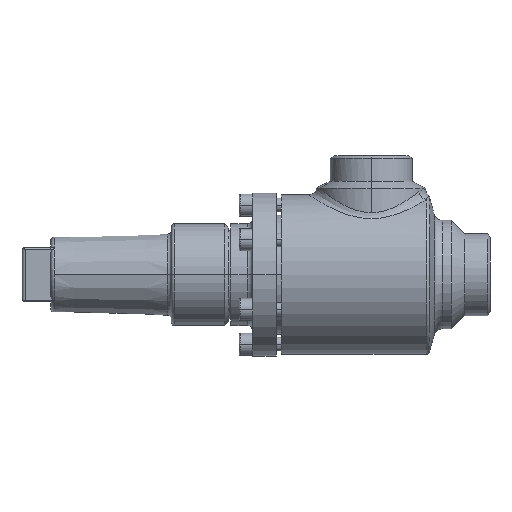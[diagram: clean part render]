
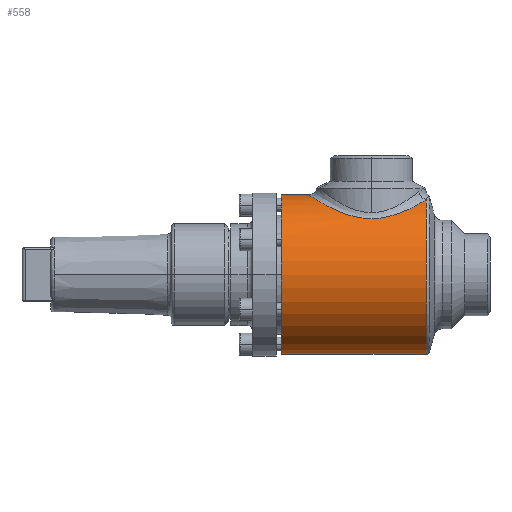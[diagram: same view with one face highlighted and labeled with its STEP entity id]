
A CAD part, left-side view. The second image highlights one B-rep face of the part: STEP entity #558.
In plain terms, the highlighted cylindrical face has radius 47 mm (diameter 94 mm), a partial arc.
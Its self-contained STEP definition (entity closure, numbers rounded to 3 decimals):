
#558 = ADVANCED_FACE ( 'NONE', ( #11615 ), #11616, .T. ) ;
#770 = CARTESIAN_POINT ( 'NONE',  ( 0., 0., -47. ) ) ;
#903 = LINE ( 'NONE', #904, #905 ) ;
#904 = CARTESIAN_POINT ( 'NONE',  ( 0., -91., -47. ) ) ;
#905 = VECTOR ( 'NONE', #906, 1000. ) ;
#906 = DIRECTION ( 'NONE',  ( 0., 1., 0. ) ) ;
#1619 = CIRCLE ( 'NONE', #1620, 47. ) ;
#1620 = AXIS2_PLACEMENT_3D ( 'NONE', #1621, #1622, #1623 ) ;
#1621 = CARTESIAN_POINT ( 'NONE',  ( 0., -85.446, 0. ) ) ;
#1622 = DIRECTION ( 'NONE',  ( 0., 1., 0. ) ) ;
#1623 = DIRECTION ( 'NONE',  ( 0., 0., -1. ) ) ;
#1661 = B_SPLINE_CURVE_WITH_KNOTS ( 'NONE', 3,
 ( #1662, #1663, #1664, #1665, #1666, #1667, #1668, #1669, #1670, #1671, #1672, #1673, #1674, #1675, #1676, #1679, #1680, #1681, #1682, #1683, #1684, #1685, #1686, #1687, #1688, #1689, #1690, #1691, #1692, #1693, #1694, #1697, #1698, #1699, #1700, #1701, #1702, #1703, #1704, #1705, #1706, #1707, #1708, #1709, #1710, #1711, #1712, #1714, #1715, #1716, #1717, #1718, #1719, #1720, #1721, #1722, #1723, #1724, #1725, #1726, #1727, #1728 ),
 .UNSPECIFIED., .F., .F.,
 ( 4, 2, 2, 2, 2, 2, 2, 2, 2, 2, 2, 2, 2, 2, 2, 2, 2, 2, 2, 2, 2, 2, 2, 2, 2, 2, 2, 2, 2, 2, 4 ),
 ( 0.017, 0.023, 0.026, 0.029, 0.035, 0.039, 0.04, 0.042, 0.048, 0.051, 0.052, 0.054, 0.06, 0.063, 0.066, 0.069, 0.072, 0.078, 0.081, 0.083, 0.084, 0.09, 0.093, 0.095, 0.096, 0.103, 0.106, 0.107, 0.109, 0.112, 0.115 ),
 .UNSPECIFIED. ) ;
#1662 = CARTESIAN_POINT ( 'NONE',  ( -16.073, -85.446, 44.166 ) ) ;
#1663 = CARTESIAN_POINT ( 'NONE',  ( -17.749, -84.43, 43.556 ) ) ;
#1664 = CARTESIAN_POINT ( 'NONE',  ( -19.293, -83.29, 42.887 ) ) ;
#1665 = CARTESIAN_POINT ( 'NONE',  ( -21.444, -81.41, 41.831 ) ) ;
#1666 = CARTESIAN_POINT ( 'NONE',  ( -22.133, -80.755, 41.469 ) ) ;
#1667 = CARTESIAN_POINT ( 'NONE',  ( -23.459, -79.389, 40.734 ) ) ;
#1668 = CARTESIAN_POINT ( 'NONE',  ( -24.096, -78.676, 40.359 ) ) ;
#1669 = CARTESIAN_POINT ( 'NONE',  ( -25.907, -76.48, 39.24 ) ) ;
#1670 = CARTESIAN_POINT ( 'NONE',  ( -26.989, -74.936, 38.497 ) ) ;
#1671 = CARTESIAN_POINT ( 'NONE',  ( -28.44, -72.491, 37.424 ) ) ;
#1672 = CARTESIAN_POINT ( 'NONE',  ( -28.894, -71.655, 37.073 ) ) ;
#1673 = CARTESIAN_POINT ( 'NONE',  ( -29.533, -70.366, 36.563 ) ) ;
#1674 = CARTESIAN_POINT ( 'NONE',  ( -29.739, -69.93, 36.396 ) ) ;
#1675 = CARTESIAN_POINT ( 'NONE',  ( -30.137, -69.047, 36.067 ) ) ;
#1676 = CARTESIAN_POINT ( 'NONE',  ( -30.328, -68.599, 35.906 ) ) ;
#1679 = CARTESIAN_POINT ( 'NONE',  ( -31.243, -66.344, 35.126 ) ) ;
#1680 = CARTESIAN_POINT ( 'NONE',  ( -31.842, -64.482, 34.576 ) ) ;
#1681 = CARTESIAN_POINT ( 'NONE',  ( -32.541, -61.591, 33.914 ) ) ;
#1682 = CARTESIAN_POINT ( 'NONE',  ( -32.74, -60.61, 33.721 ) ) ;
#1683 = CARTESIAN_POINT ( 'NONE',  ( -32.986, -59.111, 33.48 ) ) ;
#1684 = CARTESIAN_POINT ( 'NONE',  ( -33.059, -58.608, 33.408 ) ) ;
#1685 = CARTESIAN_POINT ( 'NONE',  ( -33.186, -57.603, 33.282 ) ) ;
#1686 = CARTESIAN_POINT ( 'NONE',  ( -33.239, -57.1, 33.229 ) ) ;
#1687 = CARTESIAN_POINT ( 'NONE',  ( -33.462, -54.583, 33.006 ) ) ;
#1688 = CARTESIAN_POINT ( 'NONE',  ( -33.49, -52.562, 32.976 ) ) ;
#1689 = CARTESIAN_POINT ( 'NONE',  ( -33.307, -49.52, 33.161 ) ) ;
#1690 = CARTESIAN_POINT ( 'NONE',  ( -33.207, -48.498, 33.262 ) ) ;
#1691 = CARTESIAN_POINT ( 'NONE',  ( -32.933, -46.49, 33.532 ) ) ;
#1692 = CARTESIAN_POINT ( 'NONE',  ( -32.761, -45.501, 33.702 ) ) ;
#1693 = CARTESIAN_POINT ( 'NONE',  ( -32.346, -43.55, 34.1 ) ) ;
#1694 = CARTESIAN_POINT ( 'NONE',  ( -32.103, -42.587, 34.33 ) ) ;
#1697 = CARTESIAN_POINT ( 'NONE',  ( -31.549, -40.688, 34.839 ) ) ;
#1698 = CARTESIAN_POINT ( 'NONE',  ( -31.237, -39.749, 35.121 ) ) ;
#1699 = CARTESIAN_POINT ( 'NONE',  ( -30.211, -37.009, 36.016 ) ) ;
#1700 = CARTESIAN_POINT ( 'NONE',  ( -29.406, -35.272, 36.683 ) ) ;
#1701 = CARTESIAN_POINT ( 'NONE',  ( -28.021, -32.781, 37.738 ) ) ;
#1702 = CARTESIAN_POINT ( 'NONE',  ( -27.529, -31.97, 38.099 ) ) ;
#1703 = CARTESIAN_POINT ( 'NONE',  ( -26.744, -30.781, 38.65 ) ) ;
#1704 = CARTESIAN_POINT ( 'NONE',  ( -26.475, -30.389, 38.835 ) ) ;
#1705 = CARTESIAN_POINT ( 'NONE',  ( -25.92, -29.615, 39.208 ) ) ;
#1706 = CARTESIAN_POINT ( 'NONE',  ( -25.634, -29.233, 39.396 ) ) ;
#1707 = CARTESIAN_POINT ( 'NONE',  ( -24.175, -27.357, 40.33 ) ) ;
#1708 = CARTESIAN_POINT ( 'NONE',  ( -22.902, -25.964, 41.072 ) ) ;
#1709 = CARTESIAN_POINT ( 'NONE',  ( -20.822, -24.029, 42.143 ) ) ;
#1710 = CARTESIAN_POINT ( 'NONE',  ( -20.099, -23.411, 42.494 ) ) ;
#1711 = CARTESIAN_POINT ( 'NONE',  ( -18.969, -22.523, 43.004 ) ) ;
#1712 = CARTESIAN_POINT ( 'NONE',  ( -18.584, -22.235, 43.172 ) ) ;
#1714 = CARTESIAN_POINT ( 'NONE',  ( -17.798, -21.671, 43.502 ) ) ;
#1715 = CARTESIAN_POINT ( 'NONE',  ( -17.396, -21.396, 43.664 ) ) ;
#1716 = CARTESIAN_POINT ( 'NONE',  ( -15.356, -20.064, 44.455 ) ) ;
#1717 = CARTESIAN_POINT ( 'NONE',  ( -13.635, -19.147, 45.018 ) ) ;
#1718 = CARTESIAN_POINT ( 'NONE',  ( -10.906, -18.006, 45.727 ) ) ;
#1719 = CARTESIAN_POINT ( 'NONE',  ( -9.972, -17.666, 45.94 ) ) ;
#1720 = CARTESIAN_POINT ( 'NONE',  ( -8.53, -17.219, 46.222 ) ) ;
#1721 = CARTESIAN_POINT ( 'NONE',  ( -8.041, -17.081, 46.31 ) ) ;
#1722 = CARTESIAN_POINT ( 'NONE',  ( -7.058, -16.829, 46.47 ) ) ;
#1723 = CARTESIAN_POINT ( 'NONE',  ( -6.563, -16.715, 46.542 ) ) ;
#1724 = CARTESIAN_POINT ( 'NONE',  ( -5.066, -16.41, 46.737 ) ) ;
#1725 = CARTESIAN_POINT ( 'NONE',  ( -4.049, -16.255, 46.836 ) ) ;
#1726 = CARTESIAN_POINT ( 'NONE',  ( -2.024, -16.051, 46.967 ) ) ;
#1727 = CARTESIAN_POINT ( 'NONE',  ( -1.011, -16., 47. ) ) ;
#1728 = CARTESIAN_POINT ( 'NONE',  ( 0., -16., 47. ) ) ;
#1837 = VERTEX_POINT ( 'NONE', #14110 ) ;
#4316 = EDGE_CURVE ( 'NONE', #10171, #1837, #1619, .T. ) ;
#4368 = EDGE_CURVE ( 'NONE', #1837, #12608, #1661, .T. ) ;
#4659 = ORIENTED_EDGE ( 'NONE', *, *, #4368, .T. ) ;
#4994 = VERTEX_POINT ( 'NONE', #10384 ) ;
#5011 = ORIENTED_EDGE ( 'NONE', *, *, #11040, .F. ) ;
#5353 = ORIENTED_EDGE ( 'NONE', *, *, #12819, .T. ) ;
#7278 = ORIENTED_EDGE ( 'NONE', *, *, #4316, .T. ) ;
#10171 = VERTEX_POINT ( 'NONE', #11929 ) ;
#10327 = ORIENTED_EDGE ( 'NONE', *, *, #14029, .F. ) ;
#10384 = CARTESIAN_POINT ( 'NONE',  ( 0., 0., 47. ) ) ;
#11040 = EDGE_CURVE ( 'NONE', #13910, #4994, #14462, .T. ) ;
#11164 = EDGE_LOOP ( 'NONE', ( #10327, #7278, #4659, #5353, #5011 ) ) ;
#11615 = FACE_OUTER_BOUND ( 'NONE', #11164, .T. ) ;
#11616 = CYLINDRICAL_SURFACE ( 'NONE', #11617, 47. ) ;
#11617 = AXIS2_PLACEMENT_3D ( 'NONE', #11618, #11619, #11620 ) ;
#11618 = CARTESIAN_POINT ( 'NONE',  ( 0., -91., 0. ) ) ;
#11619 = DIRECTION ( 'NONE',  ( 0., 1., 0. ) ) ;
#11620 = DIRECTION ( 'NONE',  ( 0., 0., 1. ) ) ;
#11929 = CARTESIAN_POINT ( 'NONE',  ( 0., -85.446, -47. ) ) ;
#12608 = VERTEX_POINT ( 'NONE', #14349 ) ;
#12819 = EDGE_CURVE ( 'NONE', #12608, #4994, #14566, .T. ) ;
#13910 = VERTEX_POINT ( 'NONE', #770 ) ;
#14029 = EDGE_CURVE ( 'NONE', #10171, #13910, #903, .T. ) ;
#14110 = CARTESIAN_POINT ( 'NONE',  ( -16.073, -85.446, 44.166 ) ) ;
#14349 = CARTESIAN_POINT ( 'NONE',  ( 0., -16., 47. ) ) ;
#14462 = CIRCLE ( 'NONE', #14463, 47. ) ;
#14463 = AXIS2_PLACEMENT_3D ( 'NONE', #14464, #14465, #14466 ) ;
#14464 = CARTESIAN_POINT ( 'NONE',  ( 0., 0., 0. ) ) ;
#14465 = DIRECTION ( 'NONE',  ( 0., 1., 0. ) ) ;
#14466 = DIRECTION ( 'NONE',  ( 0., 0., 1. ) ) ;
#14566 = LINE ( 'NONE', #14567, #14568 ) ;
#14567 = CARTESIAN_POINT ( 'NONE',  ( 0., -91., 47. ) ) ;
#14568 = VECTOR ( 'NONE', #14569, 1000. ) ;
#14569 = DIRECTION ( 'NONE',  ( 0., 1., 0. ) ) ;
